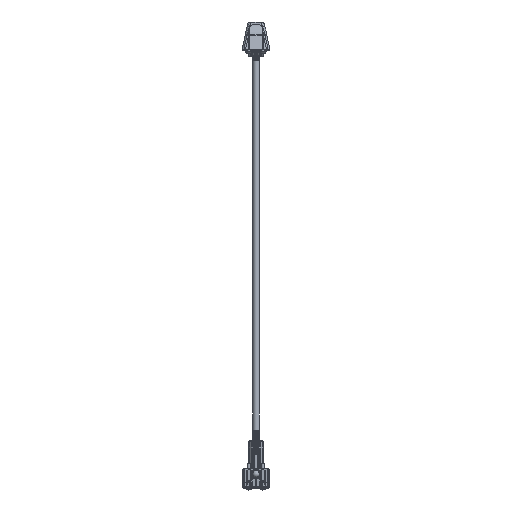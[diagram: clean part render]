
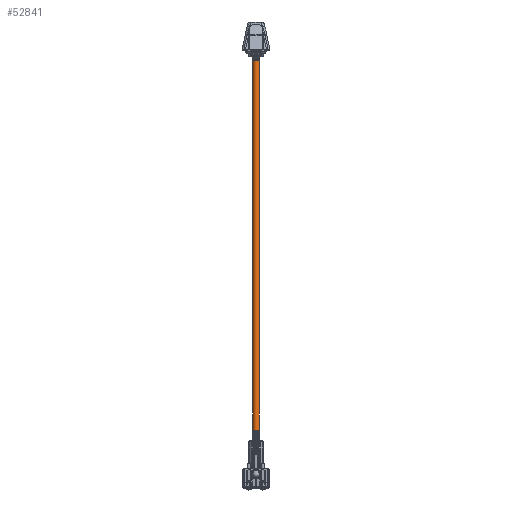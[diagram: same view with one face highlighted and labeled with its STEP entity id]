
A CAD part, top view. The second image highlights one B-rep face of the part: STEP entity #52841.
In plain terms, the highlighted cylindrical face has radius 5 mm (diameter 10 mm), a full revolution.
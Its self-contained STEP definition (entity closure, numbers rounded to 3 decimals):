
#48621=CARTESIAN_POINT('',(4.33,2.5,-265.));
#48622=VERTEX_POINT('',#48621);
#48623=CARTESIAN_POINT('',(0.0,0.0,-265.));
#48624=DIRECTION('',(0.0,0.0,1.0));
#48625=DIRECTION('',(-1.0,0.0,0.0));
#48626=AXIS2_PLACEMENT_3D('',#48623,#48624,#48625);
#48627=CIRCLE('',#48626,5.0);
#48628=EDGE_CURVE('',#48622,#48622,#48627,.T.);
#52822=CARTESIAN_POINT('',(0.0,0.0,0.0));
#52823=DIRECTION('',(0.0,0.0,1.0));
#52824=DIRECTION('',(-1.0,0.0,0.0));
#52825=AXIS2_PLACEMENT_3D('',#52822,#52823,#52824);
#52826=CYLINDRICAL_SURFACE('',#52825,5.0);
#52827=CARTESIAN_POINT('',(4.33,-2.5,265.));
#52828=VERTEX_POINT('',#52827);
#52829=CARTESIAN_POINT('',(0.0,0.0,265.));
#52830=DIRECTION('',(0.0,0.0,-1.0));
#52831=DIRECTION('',(-1.0,0.0,0.0));
#52832=AXIS2_PLACEMENT_3D('',#52829,#52830,#52831);
#52833=CIRCLE('',#52832,5.0);
#52834=EDGE_CURVE('',#52828,#52828,#52833,.T.);
#52835=ORIENTED_EDGE('',*,*,#52834,.T.);
#52836=EDGE_LOOP('',(#52835));
#52837=FACE_OUTER_BOUND('',#52836,.T.);
#52838=ORIENTED_EDGE('',*,*,#48628,.T.);
#52839=EDGE_LOOP('',(#52838));
#52840=FACE_BOUND('',#52839,.T.);
#52841=ADVANCED_FACE('',(#52837,#52840),#52826,.T.);
